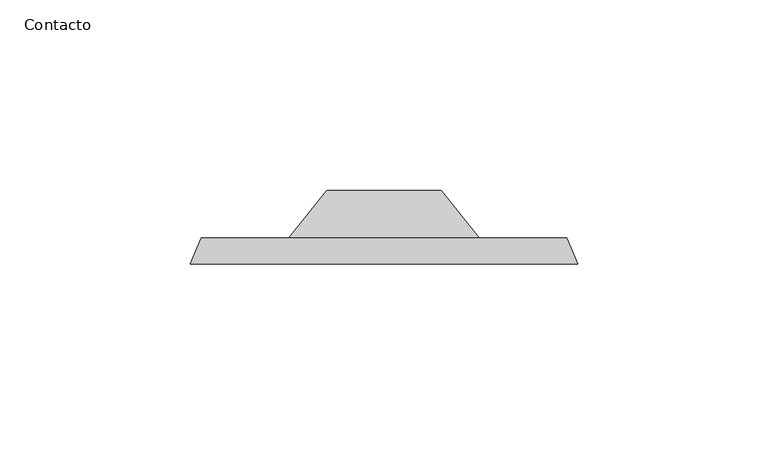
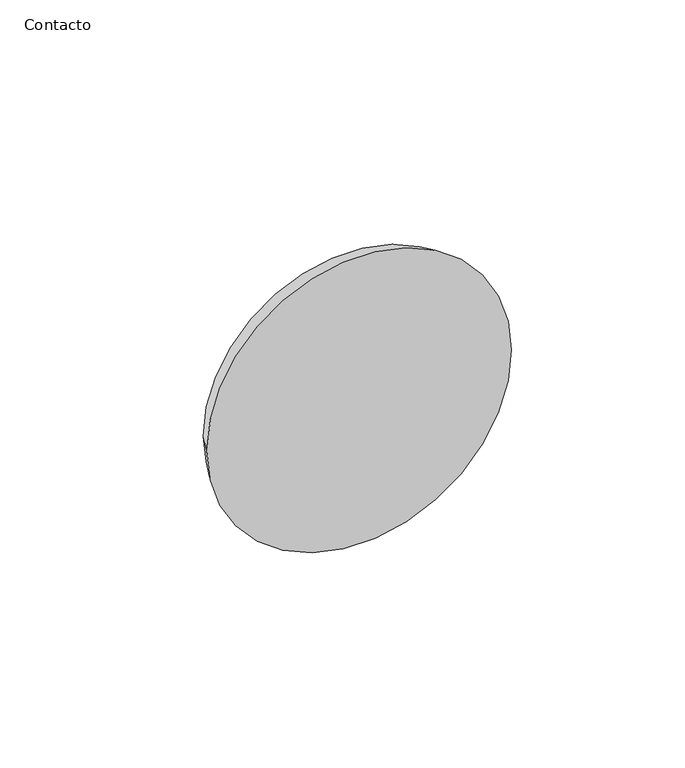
"""IFC4 building model written with IfcOpenShell, lengths in millimetres: light fixture geometry, Lumin muro - arbotante : Contacto."""

from ifc_helpers import new_model, si_unit, frame, origin, place, context, project, spatial, polyline, circle_curve, source, transform, mapped, element, save
from ifc_brep_helpers import plane_surface, revolved_surface, advanced_brep


def contacto_57433d2e(model_context):
    return source(origin(), model_context, "Body", "AdvancedBrep", [
        advanced_brep(
        [(100.0, 96.8662003, 1979.905358), (150.0, 96.8662003, 1979.905358), (110.0, 109.4205595, 1979.905358), (140.0, 109.4205595, 1979.905358)],
        [
            (0, 1, circle_curve(frame((125.0, 96.8662003, 1979.905358), z_axis=(0.0, -1.0, 0.0), x_axis=(-1.0, 0.0, 0.0)), 25.0)),
            (1, 0, circle_curve(frame((125.0, 96.8662003, 1979.905358), z_axis=(0.0, -1.0, 0.0), x_axis=(1.0, 0.0, 0.0)), 25.0)),
            (2, 3, circle_curve(frame((125.0, 109.4205595, 1979.905358), z_axis=(0.0, 1.0, 0.0), x_axis=(1.0, 0.0, 0.0)), 15.0)),
            (3, 2, circle_curve(frame((125.0, 109.4205595, 1979.905358), z_axis=(0.0, 1.0, 0.0), x_axis=(-1.0, 0.0, 0.0)), 15.0)),
            (3, 1),
            (0, 2),
        ],
        [
            plane_surface(frame((125.0, 96.8662003, 1979.905358), z_axis=(0.0, -1.0, 0.0), x_axis=(0.0, 0.0, -1.0))),
            plane_surface(frame((125.0, 109.4205595, 1979.905358), z_axis=(0.0, 1.0, 0.0), x_axis=(0.0, 0.0, -1.0))),
            revolved_surface(polyline([(140.0, 109.4205595, 1979.905358), (150.0, 96.8662003, 1979.905358)]), (125.0, 128.2520983, 1979.905358), (0.0, -1.0, 0.0)),
            revolved_surface(polyline([(110.0, 109.4205595, 1979.905358), (100.0, 96.8662003, 1979.905358)]), (125.0, 128.2520983, 1979.905358), (0.0, -1.0, 0.0)),
        ],
        [
            (0, [[1, 2]]),
            (1, [[3, 4]]),
            (2, [[-4, 5, -1, 6]]),
            (3, [[-3, -6, -2, -5]]),
        ],
    ),
        advanced_brep(
        [(77.0, 96.8662003, 1980.5403011), (173.0, 96.8662003, 1980.5403011), (74.2, 90.0, 1980.5403011), (175.8, 90.0, 1980.5403011)],
        [
            (0, 1, circle_curve(frame((125.0, 96.8662003, 1980.5403011), z_axis=(0.0, 1.0, 0.0), x_axis=(-1.0, 0.0, 0.0)), 48.0)),
            (1, 0, circle_curve(frame((125.0, 96.8662003, 1980.5403011), z_axis=(0.0, 1.0, 0.0), x_axis=(1.0, 0.0, 0.0)), 48.0)),
            (2, 3, circle_curve(frame((125.0, 90.0, 1980.5403011), z_axis=(0.0, -1.0, 0.0), x_axis=(1.0, 0.0, 0.0)), 50.8)),
            (3, 2, circle_curve(frame((125.0, 90.0, 1980.5403011), z_axis=(0.0, -1.0, 0.0), x_axis=(-1.0, 0.0, 0.0)), 50.8)),
            (3, 1),
            (0, 2),
        ],
        [
            plane_surface(frame((125.0, 96.8662003, 1980.5403011), z_axis=(0.0, 1.0, 0.0), x_axis=(0.0, 0.0, 1.0))),
            plane_surface(frame((125.0, 90.0, 1980.5403011), z_axis=(0.0, -1.0, 0.0), x_axis=(0.0, 0.0, 1.0))),
            revolved_surface(polyline([(77.0000000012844, 96.8662003, 1980.5403011), (74.2, 90.0, 1980.5403011)]), (125.0, 214.5724911, 1980.5403011), (0.0, -1.0, 0.0)),
            revolved_surface(polyline([(172.99999999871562, 96.8662003, 1980.5403011), (175.8, 90.0, 1980.5403011)]), (125.0, 214.5724911, 1980.5403011), (0.0, -1.0, 0.0)),
        ],
        [
            (0, [[1, 2]]),
            (1, [[3, 4]]),
            (2, [[-4, 5, -1, 6]]),
            (3, [[-3, -6, -2, -5]]),
        ],
    ),
    ])


if __name__ == "__main__":
    model = new_model("IFC4")
    model_context = context("Model", 3, world=origin())
    ifc_project = project(units=[si_unit("LENGTHUNIT", "METRE", prefix="MILLI")], contexts=[model_context])
    site = spatial("IfcSite", under=ifc_project)
    building = spatial("IfcBuilding", under=site)
    placement = place(None, origin())
    contacto_shape = contacto_57433d2e(model_context)
    element("IfcLightFixture", 1, ObjectType="Lumin muro - arbotante : Contacto", at=placement, inside=building, context=model_context, shape_type="MappedRepresentation", body=[
        mapped(contacto_shape, transform((0.0, 0.0, 0.0), x_axis=(1.0, 0.0, 0.0), y_axis=(0.0, 1.0, 0.0), z_axis=(0.0, 0.0, 1.0))),
    ])
    save(model, "model.ifc")
